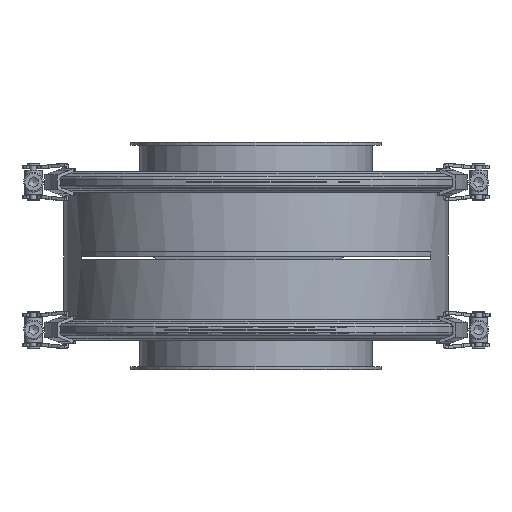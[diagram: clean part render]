
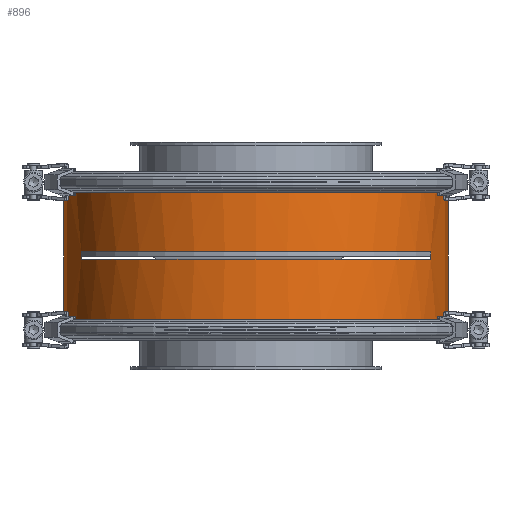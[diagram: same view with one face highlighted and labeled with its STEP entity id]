
A CAD part, left-side view. The second image highlights one B-rep face of the part: STEP entity #896.
In plain terms, the highlighted cylindrical face has radius 126.5 mm (diameter 253 mm), a full revolution.
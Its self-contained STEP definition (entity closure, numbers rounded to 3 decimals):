
#112=CARTESIAN_POINT('',(-52.7,115.0,-2.224));
#113=VERTEX_POINT('',#112);
#114=CARTESIAN_POINT('',(-52.7,115.0,2.776));
#115=VERTEX_POINT('',#114);
#116=CARTESIAN_POINT('',(-52.7,115.0,-2.224));
#117=DIRECTION('',(0.0,0.0,1.0));
#118=VECTOR('',#117,5.);
#119=LINE('',#116,#118);
#120=EDGE_CURVE('',#113,#115,#119,.T.);
#152=CARTESIAN_POINT('',(52.7,115.0,2.776));
#153=VERTEX_POINT('',#152);
#154=CARTESIAN_POINT('',(52.7,115.0,-2.224));
#155=VERTEX_POINT('',#154);
#156=CARTESIAN_POINT('',(52.7,115.0,2.776));
#157=DIRECTION('',(0.0,0.0,-1.0));
#158=VECTOR('',#157,5.);
#159=LINE('',#156,#158);
#160=EDGE_CURVE('',#153,#155,#159,.T.);
#192=CARTESIAN_POINT('',(-52.7,-115.0,2.776));
#193=VERTEX_POINT('',#192);
#194=CARTESIAN_POINT('',(-52.7,-115.0,-2.224));
#195=VERTEX_POINT('',#194);
#196=CARTESIAN_POINT('',(-52.7,-115.0,2.776));
#197=DIRECTION('',(0.0,0.0,-1.0));
#198=VECTOR('',#197,5.);
#199=LINE('',#196,#198);
#200=EDGE_CURVE('',#193,#195,#199,.T.);
#260=CARTESIAN_POINT('',(0.0,0.0,-2.224));
#261=DIRECTION('',(0.0,0.0,-1.0));
#262=DIRECTION('',(-1.0,0.0,0.0));
#263=AXIS2_PLACEMENT_3D('',#260,#261,#262);
#264=CIRCLE('',#263,126.5);
#265=EDGE_CURVE('',#195,#113,#264,.T.);
#284=CARTESIAN_POINT('',(52.7,-115.0,-2.224));
#285=VERTEX_POINT('',#284);
#286=CARTESIAN_POINT('',(0.0,0.0,-2.224));
#287=DIRECTION('',(0.0,0.0,-1.0));
#288=DIRECTION('',(-1.0,0.0,0.0));
#289=AXIS2_PLACEMENT_3D('',#286,#287,#288);
#290=CIRCLE('',#289,126.5);
#291=EDGE_CURVE('',#155,#285,#290,.T.);
#317=CARTESIAN_POINT('',(0.0,0.0,2.776));
#318=DIRECTION('',(0.0,0.0,1.0));
#319=DIRECTION('',(-1.0,0.0,0.0));
#320=AXIS2_PLACEMENT_3D('',#317,#318,#319);
#321=CIRCLE('',#320,126.5);
#322=EDGE_CURVE('',#115,#193,#321,.T.);
#369=CARTESIAN_POINT('',(52.7,-115.0,2.776));
#370=VERTEX_POINT('',#369);
#371=CARTESIAN_POINT('',(52.7,-115.0,-2.224));
#372=DIRECTION('',(0.0,0.0,1.0));
#373=VECTOR('',#372,5.);
#374=LINE('',#371,#373);
#375=EDGE_CURVE('',#285,#370,#374,.T.);
#400=CARTESIAN_POINT('',(0.0,0.0,2.776));
#401=DIRECTION('',(0.0,0.0,1.0));
#402=DIRECTION('',(-1.0,0.0,0.0));
#403=AXIS2_PLACEMENT_3D('',#400,#401,#402);
#404=CIRCLE('',#403,126.5);
#405=EDGE_CURVE('',#370,#153,#404,.T.);
#696=CARTESIAN_POINT('',(126.5,0.,-49.5));
#697=VERTEX_POINT('',#696);
#698=CARTESIAN_POINT('',(0.0,0.0,-49.5));
#699=DIRECTION('',(0.0,0.0,1.0));
#700=DIRECTION('',(-1.0,0.0,0.0));
#701=AXIS2_PLACEMENT_3D('',#698,#699,#700);
#702=CIRCLE('',#701,126.5);
#703=EDGE_CURVE('',#697,#697,#702,.T.);
#765=CARTESIAN_POINT('',(126.5,0.,49.5));
#766=VERTEX_POINT('',#765);
#767=CARTESIAN_POINT('',(0.0,0.0,49.5));
#768=DIRECTION('',(0.0,0.0,-1.0));
#769=DIRECTION('',(-1.0,0.0,0.0));
#770=AXIS2_PLACEMENT_3D('',#767,#768,#769);
#771=CIRCLE('',#770,126.5);
#772=EDGE_CURVE('',#766,#766,#771,.T.);
#873=CARTESIAN_POINT('',(0.0,0.0,0.0));
#874=DIRECTION('',(0.0,0.0,1.0));
#875=DIRECTION('',(-1.0,0.0,0.0));
#876=AXIS2_PLACEMENT_3D('',#873,#874,#875);
#877=CYLINDRICAL_SURFACE('',#876,126.5);
#878=ORIENTED_EDGE('',*,*,#703,.T.);
#879=EDGE_LOOP('',(#878));
#880=FACE_OUTER_BOUND('',#879,.T.);
#881=ORIENTED_EDGE('',*,*,#375,.T.);
#882=ORIENTED_EDGE('',*,*,#405,.T.);
#883=ORIENTED_EDGE('',*,*,#160,.T.);
#884=ORIENTED_EDGE('',*,*,#291,.T.);
#885=EDGE_LOOP('',(#881,#882,#883,#884));
#886=FACE_BOUND('',#885,.T.);
#887=ORIENTED_EDGE('',*,*,#200,.T.);
#888=ORIENTED_EDGE('',*,*,#265,.T.);
#889=ORIENTED_EDGE('',*,*,#120,.T.);
#890=ORIENTED_EDGE('',*,*,#322,.T.);
#891=EDGE_LOOP('',(#887,#888,#889,#890));
#892=FACE_BOUND('',#891,.T.);
#893=ORIENTED_EDGE('',*,*,#772,.T.);
#894=EDGE_LOOP('',(#893));
#895=FACE_BOUND('',#894,.T.);
#896=ADVANCED_FACE('',(#880,#886,#892,#895),#877,.T.);
